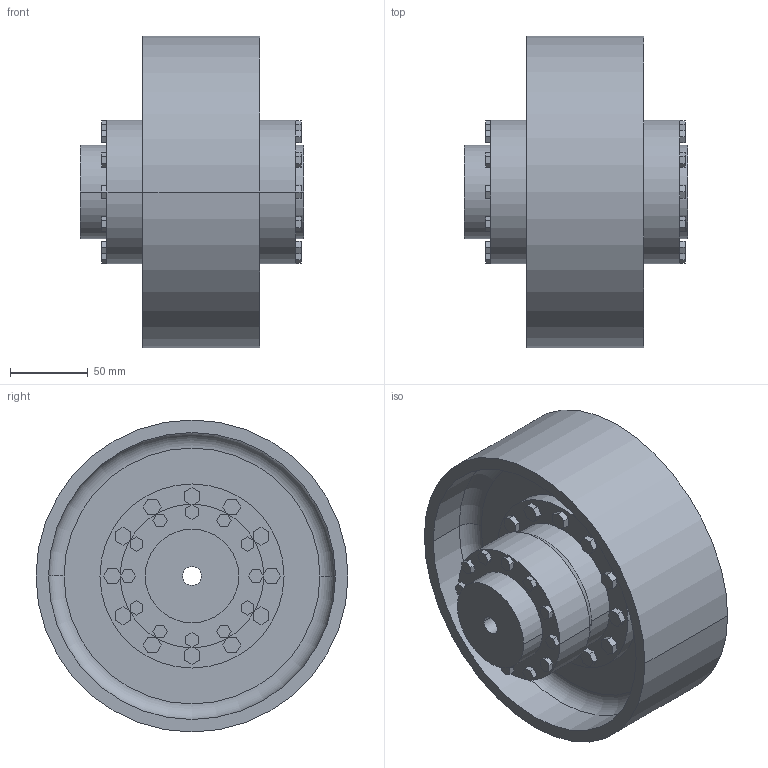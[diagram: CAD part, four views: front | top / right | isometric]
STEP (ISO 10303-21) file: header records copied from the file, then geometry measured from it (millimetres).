
FILE_DESCRIPTION((''),'2;1');
FILE_NAME('A19733800-0_ASM','2019-05-23T',('AB_Roschiwal'),('RENK AG'),'PRO/ENGINEER BY PARAMETRIC TECHNOLOGY CORPORATION, 2015440','PRO/ENGINEER BY PARAMETRIC TECHNOLOGY CORPORATION, 2015440','');
FILE_SCHEMA(('CONFIG_CONTROL_DESIGN'));
Length unit declared in the file: millimetre
Products named in the file (4): SBKD38_GEHAEUSE; SBKD38_NABE; SBKD38_BREMSSCHEIBE; A19733800-0_ASM
Assembly tree (4 placements, depth 2):
  A19733800-0_ASM
    SBKD38_GEHAEUSE
    SBKD38_NABE  x2
    SBKD38_BREMSSCHEIBE
Bounding box: 143 x 200 x 200 mm (x, y, z)
Volume: 1246730.1 mm3; surface area: 285164.9 mm2
Topology: 4 solids, 4 shells, 474 faces, 1164 edges, 772 vertices
Faces by surface type: plane 370, cylinder 96, cone 4, torus 4
Entity records: 13708 total; most frequent: CARTESIAN_POINT 2366, ORIENTED_EDGE 2280, DIRECTION 2264, EDGE_CURVE 1140, VECTOR 956, LINE 956, VERTEX_POINT 756, AXIS2_PLACEMENT_3D 654
